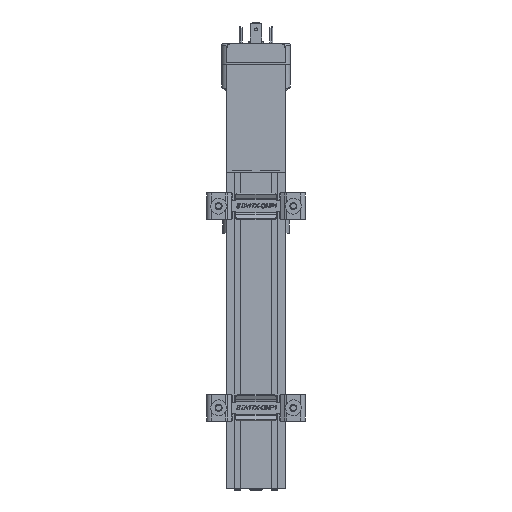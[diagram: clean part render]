
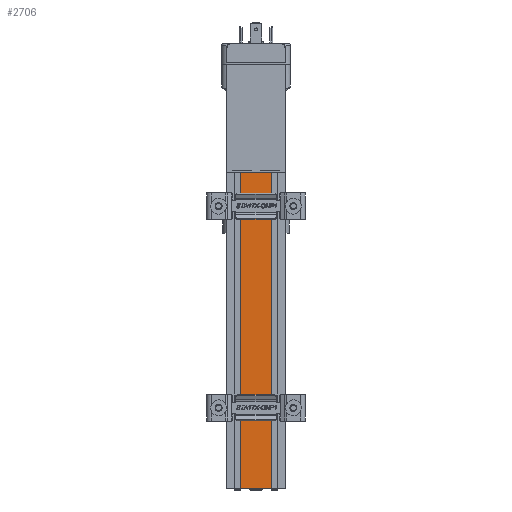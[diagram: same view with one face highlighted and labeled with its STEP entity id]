
A CAD part, front view. The second image highlights one B-rep face of the part: STEP entity #2706.
In plain terms, the highlighted planar face has unit normal (0, -1, 0).
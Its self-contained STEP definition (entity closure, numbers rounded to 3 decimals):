
#196 = CARTESIAN_POINT ( 'NONE',  ( 9., 0., -179.5 ) ) ;
#798 = AXIS2_PLACEMENT_3D ( 'NONE', #196, #24748, #28551 ) ;
#2323 = DIRECTION ( 'NONE',  ( 1., 0., 0. ) ) ;
#2706 = ADVANCED_FACE ( 'NONE', ( #6243 ), #27763, .T. ) ;
#3460 = VERTEX_POINT ( 'NONE', #13350 ) ;
#4302 = ORIENTED_EDGE ( 'NONE', *, *, #34532, .T. ) ;
#5090 = VECTOR ( 'NONE', #13681, 1000. ) ;
#5360 = EDGE_CURVE ( 'NONE', #11895, #24638, #31352, .T. ) ;
#5467 = DIRECTION ( 'NONE',  ( 0., 0., 1. ) ) ;
#6243 = FACE_OUTER_BOUND ( 'NONE', #37639, .T. ) ;
#8461 = ORIENTED_EDGE ( 'NONE', *, *, #16958, .F. ) ;
#10803 = CARTESIAN_POINT ( 'NONE',  ( -9., 0., -179.5 ) ) ;
#11895 = VERTEX_POINT ( 'NONE', #10803 ) ;
#13350 = CARTESIAN_POINT ( 'NONE',  ( 9., 0., -179.5 ) ) ;
#13681 = DIRECTION ( 'NONE',  ( 1., 0., 0. ) ) ;
#16958 = EDGE_CURVE ( 'NONE', #24638, #38440, #22334, .T. ) ;
#19043 = DIRECTION ( 'NONE',  ( 0., 0., 1. ) ) ;
#20752 = LINE ( 'NONE', #33046, #34196 ) ;
#22334 = LINE ( 'NONE', #31412, #5090 ) ;
#22891 = VECTOR ( 'NONE', #19043, 1000. ) ;
#24638 = VERTEX_POINT ( 'NONE', #37093 ) ;
#24748 = DIRECTION ( 'NONE',  ( 0., -1., 0. ) ) ;
#25372 = ORIENTED_EDGE ( 'NONE', *, *, #25605, .T. ) ;
#25605 = EDGE_CURVE ( 'NONE', #11895, #3460, #29124, .T. ) ;
#27763 = PLANE ( 'NONE',  #798 ) ;
#28551 = DIRECTION ( 'NONE',  ( 0., 0., -1. ) ) ;
#28589 = ORIENTED_EDGE ( 'NONE', *, *, #5360, .F. ) ;
#29124 = LINE ( 'NONE', #38973, #30299 ) ;
#30299 = VECTOR ( 'NONE', #2323, 1000. ) ;
#31352 = LINE ( 'NONE', #37577, #22891 ) ;
#31412 = CARTESIAN_POINT ( 'NONE',  ( 9., 0., 0. ) ) ;
#33046 = CARTESIAN_POINT ( 'NONE',  ( 9., 0., -179.5 ) ) ;
#34196 = VECTOR ( 'NONE', #5467, 1000. ) ;
#34532 = EDGE_CURVE ( 'NONE', #3460, #38440, #20752, .T. ) ;
#37093 = CARTESIAN_POINT ( 'NONE',  ( -9., 0., 0. ) ) ;
#37577 = CARTESIAN_POINT ( 'NONE',  ( -9., 0., -179.5 ) ) ;
#37639 = EDGE_LOOP ( 'NONE', ( #8461, #28589, #25372, #4302 ) ) ;
#38440 = VERTEX_POINT ( 'NONE', #38993 ) ;
#38973 = CARTESIAN_POINT ( 'NONE',  ( 9., 0., -179.5 ) ) ;
#38993 = CARTESIAN_POINT ( 'NONE',  ( 9., 0., 0. ) ) ;
